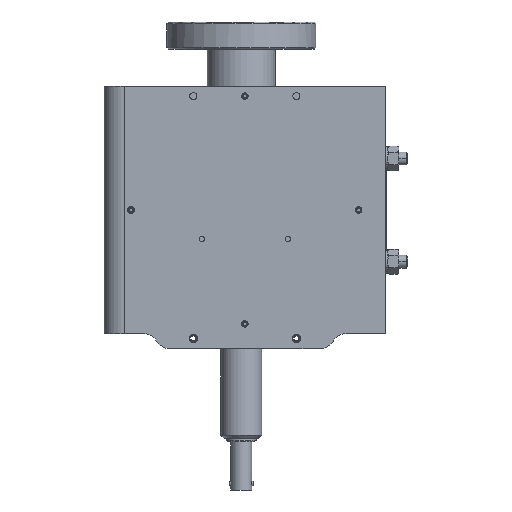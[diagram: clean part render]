
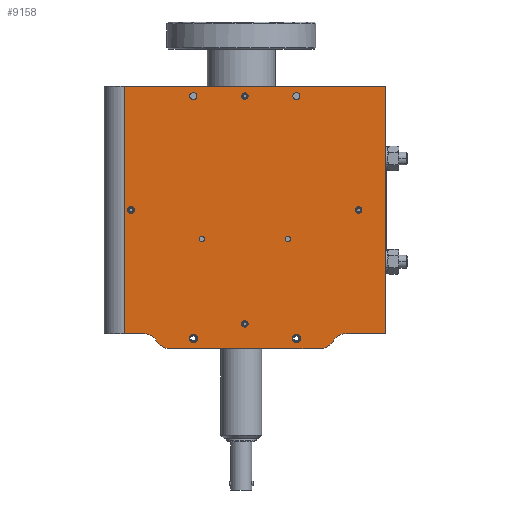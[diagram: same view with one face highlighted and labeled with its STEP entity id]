
A CAD part, front view. The second image highlights one B-rep face of the part: STEP entity #9158.
In plain terms, the highlighted planar face has unit normal (0, -1, 0).
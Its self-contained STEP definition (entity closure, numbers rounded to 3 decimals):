
#324=CARTESIAN_POINT('',(122.15,8.7,-152.));
#325=DIRECTION('',(0.,1.,0.));
#326=DIRECTION('',(-0.866,0.,0.5));
#327=AXIS2_PLACEMENT_3D('',#324,#325,#326);
#334=CARTESIAN_POINT('',(40.074,8.7,-145.));
#335=DIRECTION('',(0.,-1.,0.));
#336=DIRECTION('',(-0.866,0.,-0.5));
#337=AXIS2_PLACEMENT_3D('',#334,#335,#336);
#339=DIRECTION('',(1.,0.,0.));
#340=VECTOR('',#339,8.875);
#341=CARTESIAN_POINT('',(19.075,8.7,-145.));
#342=LINE('',#341,#340);
#343=DIRECTION('',(-1.,0.,0.));
#344=VECTOR('',#343,18.4);
#345=CARTESIAN_POINT('',(140.55,8.7,-145.));
#346=LINE('',#345,#344);
#347=CARTESIAN_POINT('',(110.026,8.7,-145.));
#348=DIRECTION('',(0.,-1.,0.));
#349=DIRECTION('',(0.,0.,-1.));
#350=AXIS2_PLACEMENT_3D('',#347,#348,#349);
#352=DIRECTION('',(-1.,0.,0.));
#353=VECTOR('',#352,69.951);
#354=CARTESIAN_POINT('',(110.026,8.7,-152.));
#355=LINE('',#354,#353);
#356=CARTESIAN_POINT('',(22.05,8.7,-87.5));
#357=DIRECTION('',(0.,1.,0.));
#358=DIRECTION('',(-1.,0.,0.));
#359=AXIS2_PLACEMENT_3D('',#356,#357,#358);
#361=CARTESIAN_POINT('',(22.05,8.7,-87.5));
#362=DIRECTION('',(0.,1.,0.));
#363=DIRECTION('',(1.,0.,0.));
#364=AXIS2_PLACEMENT_3D('',#361,#362,#363);
#366=CARTESIAN_POINT('',(75.05,8.7,-140.5));
#367=DIRECTION('',(0.,1.,0.));
#368=DIRECTION('',(-1.,0.,0.));
#369=AXIS2_PLACEMENT_3D('',#366,#367,#368);
#371=CARTESIAN_POINT('',(75.05,8.7,-140.5));
#372=DIRECTION('',(0.,1.,0.));
#373=DIRECTION('',(1.,0.,0.));
#374=AXIS2_PLACEMENT_3D('',#371,#372,#373);
#376=CARTESIAN_POINT('',(75.05,8.7,-34.5));
#377=DIRECTION('',(0.,1.,0.));
#378=DIRECTION('',(-1.,0.,0.));
#379=AXIS2_PLACEMENT_3D('',#376,#377,#378);
#381=CARTESIAN_POINT('',(75.05,8.7,-34.5));
#382=DIRECTION('',(0.,1.,0.));
#383=DIRECTION('',(1.,0.,0.));
#384=AXIS2_PLACEMENT_3D('',#381,#382,#383);
#386=CARTESIAN_POINT('',(128.05,8.7,-87.5));
#387=DIRECTION('',(0.,1.,0.));
#388=DIRECTION('',(-1.,0.,0.));
#389=AXIS2_PLACEMENT_3D('',#386,#387,#388);
#391=CARTESIAN_POINT('',(128.05,8.7,-87.5));
#392=DIRECTION('',(0.,1.,0.));
#393=DIRECTION('',(1.,0.,0.));
#394=AXIS2_PLACEMENT_3D('',#391,#392,#393);
#396=CARTESIAN_POINT('',(99.05,8.7,-34.5));
#397=DIRECTION('',(0.,1.,0.));
#398=DIRECTION('',(-1.,0.,0.));
#399=AXIS2_PLACEMENT_3D('',#396,#397,#398);
#401=CARTESIAN_POINT('',(99.05,8.7,-34.5));
#402=DIRECTION('',(0.,1.,0.));
#403=DIRECTION('',(1.,0.,0.));
#404=AXIS2_PLACEMENT_3D('',#401,#402,#403);
#406=CARTESIAN_POINT('',(51.05,8.7,-34.5));
#407=DIRECTION('',(0.,1.,0.));
#408=DIRECTION('',(-1.,0.,0.));
#409=AXIS2_PLACEMENT_3D('',#406,#407,#408);
#411=CARTESIAN_POINT('',(51.05,8.7,-34.5));
#412=DIRECTION('',(0.,1.,0.));
#413=DIRECTION('',(1.,0.,0.));
#414=AXIS2_PLACEMENT_3D('',#411,#412,#413);
#416=CARTESIAN_POINT('',(95.05,8.7,-101.));
#417=DIRECTION('',(0.,1.,0.));
#418=DIRECTION('',(-1.,0.,0.));
#419=AXIS2_PLACEMENT_3D('',#416,#417,#418);
#421=CARTESIAN_POINT('',(95.05,8.7,-101.));
#422=DIRECTION('',(0.,1.,0.));
#423=DIRECTION('',(1.,0.,0.));
#424=AXIS2_PLACEMENT_3D('',#421,#422,#423);
#426=CARTESIAN_POINT('',(55.05,8.7,-101.));
#427=DIRECTION('',(0.,1.,0.));
#428=DIRECTION('',(-1.,0.,0.));
#429=AXIS2_PLACEMENT_3D('',#426,#427,#428);
#431=CARTESIAN_POINT('',(55.05,8.7,-101.));
#432=DIRECTION('',(0.,1.,0.));
#433=DIRECTION('',(1.,0.,0.));
#434=AXIS2_PLACEMENT_3D('',#431,#432,#433);
#436=CARTESIAN_POINT('',(51.05,8.7,-147.2));
#437=DIRECTION('',(0.,1.,0.));
#438=DIRECTION('',(-1.,0.,0.));
#439=AXIS2_PLACEMENT_3D('',#436,#437,#438);
#441=CARTESIAN_POINT('',(51.05,8.7,-147.2));
#442=DIRECTION('',(0.,1.,0.));
#443=DIRECTION('',(1.,0.,0.));
#444=AXIS2_PLACEMENT_3D('',#441,#442,#443);
#446=CARTESIAN_POINT('',(99.05,8.7,-147.2));
#447=DIRECTION('',(0.,1.,0.));
#448=DIRECTION('',(-1.,0.,0.));
#449=AXIS2_PLACEMENT_3D('',#446,#447,#448);
#451=CARTESIAN_POINT('',(99.05,8.7,-147.2));
#452=DIRECTION('',(0.,1.,0.));
#453=DIRECTION('',(1.,0.,0.));
#454=AXIS2_PLACEMENT_3D('',#451,#452,#453);
#465=CARTESIAN_POINT('',(27.95,8.7,-152.));
#466=DIRECTION('',(0.,1.,0.));
#467=DIRECTION('',(0.,0.,1.));
#468=AXIS2_PLACEMENT_3D('',#465,#466,#467);
#688=DIRECTION('',(0.,0.,-1.));
#689=VECTOR('',#688,115.);
#690=CARTESIAN_POINT('',(19.075,8.7,-30.));
#691=LINE('',#690,#689);
#692=DIRECTION('',(1.,0.,0.));
#693=VECTOR('',#692,121.475);
#694=CARTESIAN_POINT('',(19.075,8.7,-30.));
#695=LINE('',#694,#693);
#708=DIRECTION('',(0.,0.,1.));
#709=VECTOR('',#708,115.);
#710=CARTESIAN_POINT('',(140.55,8.7,-145.));
#711=LINE('',#710,#709);
#7906=CARTESIAN_POINT('',(19.075,8.7,-30.));
#7908=VERTEX_POINT('',#7906);
#7909=CARTESIAN_POINT('',(140.55,8.7,-30.));
#7910=VERTEX_POINT('',#7909);
#7915=CARTESIAN_POINT('',(20.55,8.7,-87.5));
#7916=CARTESIAN_POINT('',(23.55,8.7,-87.5));
#7917=VERTEX_POINT('',#7915);
#7918=VERTEX_POINT('',#7916);
#7919=CARTESIAN_POINT('',(73.55,8.7,-140.5));
#7920=CARTESIAN_POINT('',(76.55,8.7,-140.5));
#7921=VERTEX_POINT('',#7919);
#7922=VERTEX_POINT('',#7920);
#7923=CARTESIAN_POINT('',(73.55,8.7,-34.5));
#7924=CARTESIAN_POINT('',(76.55,8.7,-34.5));
#7925=VERTEX_POINT('',#7923);
#7926=VERTEX_POINT('',#7924);
#7927=CARTESIAN_POINT('',(126.55,8.7,-87.5));
#7928=CARTESIAN_POINT('',(129.55,8.7,-87.5));
#7929=VERTEX_POINT('',#7927);
#7930=VERTEX_POINT('',#7928);
#7931=CARTESIAN_POINT('',(97.4,8.7,-34.5));
#7932=CARTESIAN_POINT('',(100.7,8.7,-34.5));
#7933=VERTEX_POINT('',#7931);
#7934=VERTEX_POINT('',#7932);
#7939=CARTESIAN_POINT('',(49.4,8.7,-34.5));
#7940=CARTESIAN_POINT('',(52.7,8.7,-34.5));
#7941=VERTEX_POINT('',#7939);
#7942=VERTEX_POINT('',#7940);
#7956=CARTESIAN_POINT('',(19.075,8.7,-145.));
#7958=VERTEX_POINT('',#7956);
#7961=CARTESIAN_POINT('',(140.55,8.7,-145.));
#7962=VERTEX_POINT('',#7961);
#7965=CARTESIAN_POINT('',(122.15,8.7,-145.));
#7966=VERTEX_POINT('',#7965);
#7967=CARTESIAN_POINT('',(27.95,8.7,-145.));
#7968=VERTEX_POINT('',#7967);
#7977=CARTESIAN_POINT('',(34.012,8.7,-148.5));
#7978=VERTEX_POINT('',#7977);
#7979=CARTESIAN_POINT('',(40.074,8.7,-152.));
#7980=VERTEX_POINT('',#7979);
#7981=CARTESIAN_POINT('',(110.026,8.7,-152.));
#7982=CARTESIAN_POINT('',(116.088,8.7,-148.5));
#7983=VERTEX_POINT('',#7981);
#7984=VERTEX_POINT('',#7982);
#7989=CARTESIAN_POINT('',(49.05,8.7,-147.2));
#7990=CARTESIAN_POINT('',(53.05,8.7,-147.2));
#7991=VERTEX_POINT('',#7989);
#7992=VERTEX_POINT('',#7990);
#7995=CARTESIAN_POINT('',(97.05,8.7,-147.2));
#7996=CARTESIAN_POINT('',(101.05,8.7,-147.2));
#7997=VERTEX_POINT('',#7995);
#7998=VERTEX_POINT('',#7996);
#8001=CARTESIAN_POINT('',(93.8,8.7,-101.));
#8002=CARTESIAN_POINT('',(96.3,8.7,-101.));
#8003=VERTEX_POINT('',#8001);
#8004=VERTEX_POINT('',#8002);
#8005=CARTESIAN_POINT('',(53.8,8.7,-101.));
#8006=CARTESIAN_POINT('',(56.3,8.7,-101.));
#8007=VERTEX_POINT('',#8005);
#8008=VERTEX_POINT('',#8006);
#9075=CARTESIAN_POINT('',(19.075,8.7,-30.));
#9076=DIRECTION('',(0.,-1.,0.));
#9077=DIRECTION('',(1.,0.,0.));
#9078=AXIS2_PLACEMENT_3D('',#9075,#9076,#9077);
#9079=PLANE('',#9078);
#9081=ORIENTED_EDGE('',*,*,#9080,.F.);
#9083=ORIENTED_EDGE('',*,*,#9082,.F.);
#9085=ORIENTED_EDGE('',*,*,#9084,.F.);
#9087=ORIENTED_EDGE('',*,*,#9086,.F.);
#9089=ORIENTED_EDGE('',*,*,#9088,.T.);
#9091=ORIENTED_EDGE('',*,*,#9090,.F.);
#9092=ORIENTED_EDGE('',*,*,#9030,.T.);
#9093=ORIENTED_EDGE('',*,*,#9054,.F.);
#9094=ORIENTED_EDGE('',*,*,#9066,.F.);
#9096=ORIENTED_EDGE('',*,*,#9095,.T.);
#9097=EDGE_LOOP('',(#9081,#9083,#9085,#9087,#9089,#9091,#9092,#9093,#9094,
#9096));
#9098=FACE_OUTER_BOUND('',#9097,.F.);
#9100=ORIENTED_EDGE('',*,*,#9099,.F.);
#9102=ORIENTED_EDGE('',*,*,#9101,.F.);
#9103=EDGE_LOOP('',(#9100,#9102));
#9104=FACE_BOUND('',#9103,.F.);
#9106=ORIENTED_EDGE('',*,*,#9105,.F.);
#9108=ORIENTED_EDGE('',*,*,#9107,.F.);
#9109=EDGE_LOOP('',(#9106,#9108));
#9110=FACE_BOUND('',#9109,.F.);
#9112=ORIENTED_EDGE('',*,*,#9111,.F.);
#9114=ORIENTED_EDGE('',*,*,#9113,.F.);
#9115=EDGE_LOOP('',(#9112,#9114));
#9116=FACE_BOUND('',#9115,.F.);
#9117=ORIENTED_EDGE('',*,*,#8789,.F.);
#9119=ORIENTED_EDGE('',*,*,#9118,.F.);
#9120=EDGE_LOOP('',(#9117,#9119));
#9121=FACE_BOUND('',#9120,.F.);
#9123=ORIENTED_EDGE('',*,*,#9122,.F.);
#9125=ORIENTED_EDGE('',*,*,#9124,.F.);
#9126=EDGE_LOOP('',(#9123,#9125));
#9127=FACE_BOUND('',#9126,.F.);
#9129=ORIENTED_EDGE('',*,*,#9128,.F.);
#9131=ORIENTED_EDGE('',*,*,#9130,.F.);
#9132=EDGE_LOOP('',(#9129,#9131));
#9133=FACE_BOUND('',#9132,.F.);
#9135=ORIENTED_EDGE('',*,*,#9134,.F.);
#9137=ORIENTED_EDGE('',*,*,#9136,.F.);
#9138=EDGE_LOOP('',(#9135,#9137));
#9139=FACE_BOUND('',#9138,.F.);
#9141=ORIENTED_EDGE('',*,*,#9140,.F.);
#9143=ORIENTED_EDGE('',*,*,#9142,.F.);
#9144=EDGE_LOOP('',(#9141,#9143));
#9145=FACE_BOUND('',#9144,.F.);
#9147=ORIENTED_EDGE('',*,*,#9146,.F.);
#9149=ORIENTED_EDGE('',*,*,#9148,.F.);
#9150=EDGE_LOOP('',(#9147,#9149));
#9151=FACE_BOUND('',#9150,.F.);
#9153=ORIENTED_EDGE('',*,*,#9152,.F.);
#9155=ORIENTED_EDGE('',*,*,#9154,.F.);
#9156=EDGE_LOOP('',(#9153,#9155));
#9157=FACE_BOUND('',#9156,.F.);
#9158=ADVANCED_FACE('',(#9098,#9104,#9110,#9116,#9121,#9127,#9133,#9139,#9145,
#9151,#9157),#9079,.T.);
#328=CIRCLE('',#327,7.);
#338=CIRCLE('',#337,7.);
#351=CIRCLE('',#350,7.);
#360=CIRCLE('',#359,1.5);
#365=CIRCLE('',#364,1.5);
#370=CIRCLE('',#369,1.5);
#375=CIRCLE('',#374,1.5);
#380=CIRCLE('',#379,1.5);
#385=CIRCLE('',#384,1.5);
#390=CIRCLE('',#389,1.5);
#395=CIRCLE('',#394,1.5);
#400=CIRCLE('',#399,1.65);
#405=CIRCLE('',#404,1.65);
#410=CIRCLE('',#409,1.65);
#415=CIRCLE('',#414,1.65);
#420=CIRCLE('',#419,1.25);
#425=CIRCLE('',#424,1.25);
#430=CIRCLE('',#429,1.25);
#435=CIRCLE('',#434,1.25);
#440=CIRCLE('',#439,2.);
#445=CIRCLE('',#444,2.);
#450=CIRCLE('',#449,2.);
#455=CIRCLE('',#454,2.);
#469=CIRCLE('',#468,7.);
#8789=EDGE_CURVE('',#7929,#7930,#390,.T.);
#9030=EDGE_CURVE('',#7962,#7966,#346,.T.);
#9054=EDGE_CURVE('',#7984,#7966,#328,.T.);
#9066=EDGE_CURVE('',#7983,#7984,#351,.T.);
#9080=EDGE_CURVE('',#7978,#7980,#338,.T.);
#9082=EDGE_CURVE('',#7968,#7978,#469,.T.);
#9084=EDGE_CURVE('',#7958,#7968,#342,.T.);
#9086=EDGE_CURVE('',#7908,#7958,#691,.T.);
#9088=EDGE_CURVE('',#7908,#7910,#695,.T.);
#9090=EDGE_CURVE('',#7962,#7910,#711,.T.);
#9095=EDGE_CURVE('',#7983,#7980,#355,.T.);
#9099=EDGE_CURVE('',#7917,#7918,#360,.T.);
#9101=EDGE_CURVE('',#7918,#7917,#365,.T.);
#9105=EDGE_CURVE('',#7921,#7922,#370,.T.);
#9107=EDGE_CURVE('',#7922,#7921,#375,.T.);
#9111=EDGE_CURVE('',#7925,#7926,#380,.T.);
#9113=EDGE_CURVE('',#7926,#7925,#385,.T.);
#9118=EDGE_CURVE('',#7930,#7929,#395,.T.);
#9122=EDGE_CURVE('',#7933,#7934,#400,.T.);
#9124=EDGE_CURVE('',#7934,#7933,#405,.T.);
#9128=EDGE_CURVE('',#7941,#7942,#410,.T.);
#9130=EDGE_CURVE('',#7942,#7941,#415,.T.);
#9134=EDGE_CURVE('',#8003,#8004,#420,.T.);
#9136=EDGE_CURVE('',#8004,#8003,#425,.T.);
#9140=EDGE_CURVE('',#8007,#8008,#430,.T.);
#9142=EDGE_CURVE('',#8008,#8007,#435,.T.);
#9146=EDGE_CURVE('',#7991,#7992,#440,.T.);
#9148=EDGE_CURVE('',#7992,#7991,#445,.T.);
#9152=EDGE_CURVE('',#7997,#7998,#450,.T.);
#9154=EDGE_CURVE('',#7998,#7997,#455,.T.);
